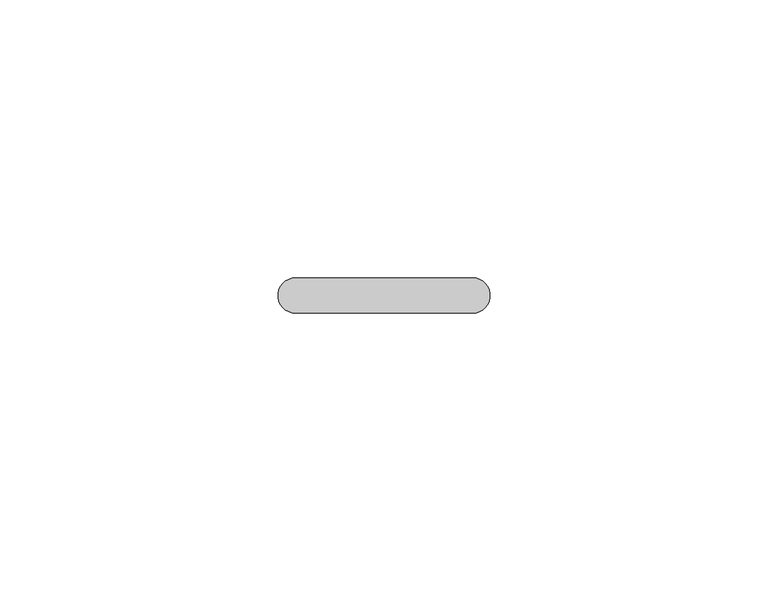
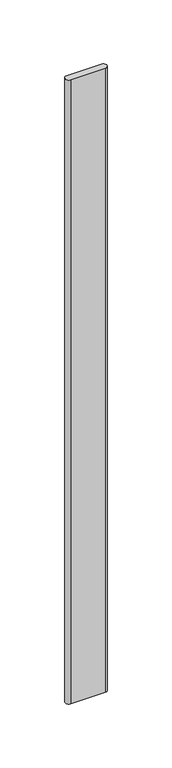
"""IFC4 building model written with IfcOpenShell, lengths in millimetres: proxy geometry, Durabond Generic Model Insulation Adhesive Flat : Durabond Generic Model Insulation Adhesive Flat."""

from ifc_helpers import new_model, si_unit, point, frame_2d, origin, origin_with_axes, place, context, project, spatial, polyline, circle_curve, trimmed, segment, composite_curve, outline, extrude, source, transform, mapped, element, save


def generic_models_ff296894(model_context):
    return source(origin(), model_context, "Body", "SweptSolid", [
        extrude(outline(composite_curve([segment(trimmed(circle_curve(frame_2d((15.875, 0.0)), 3.175), [point((15.875, 3.175))], [point((15.875, -3.175))], False, "CARTESIAN"), True, "CONTINUOUS"), segment(polyline([(15.875, -3.175), (-15.875, -3.175)]), True, "CONTINUOUS"), segment(trimmed(circle_curve(frame_2d((-15.875, 0.0)), 3.175), [point((-15.875, -3.175))], [point((-15.875, 3.175))], False, "CARTESIAN"), True, "CONTINUOUS"), segment(polyline([(-15.875, 3.175), (15.875, 3.175)]), True, "CONTINUOUS")], self_intersect=False)), origin_with_axes(), (0.0, 0.0, 1.0), 603.25),
    ])


if __name__ == "__main__":
    model = new_model("IFC4")
    model_context = context("Model", 3, world=origin())
    ifc_project = project(units=[si_unit("LENGTHUNIT", "METRE", prefix="MILLI")], contexts=[model_context])
    site = spatial("IfcSite", under=ifc_project)
    building = spatial("IfcBuilding", under=site)
    placement = place(None, origin())
    generic_models_shape = generic_models_ff296894(model_context)
    element("IfcBuildingElementProxy", 1, Name="Durabond Generic Model Insulation Adhesive Flat : Durabond Generic Model Insulation Adhesive Flat", ObjectType="Durabond Generic Model Insulation Adhesive Flat : Durabond Generic Model Insulation Adhesive Flat", at=placement, inside=building, context=model_context, shape_type="MappedRepresentation", body=[
        mapped(generic_models_shape, transform((0.0, 0.0, 0.0), x_axis=(1.0, 0.0, 0.0), y_axis=(0.0, 1.0, 0.0), z_axis=(0.0, 0.0, 1.0))),
    ])
    save(model, "model.ifc")
